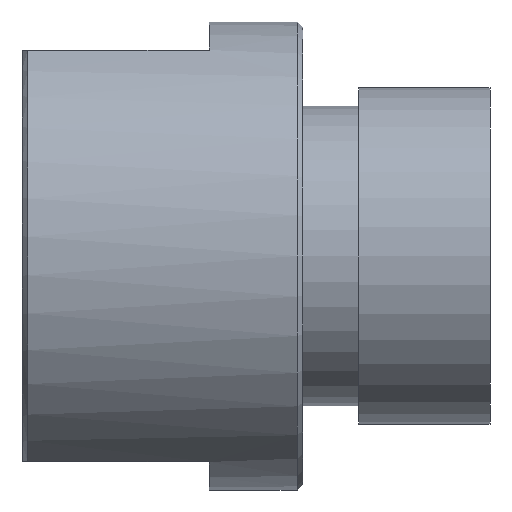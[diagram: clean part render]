
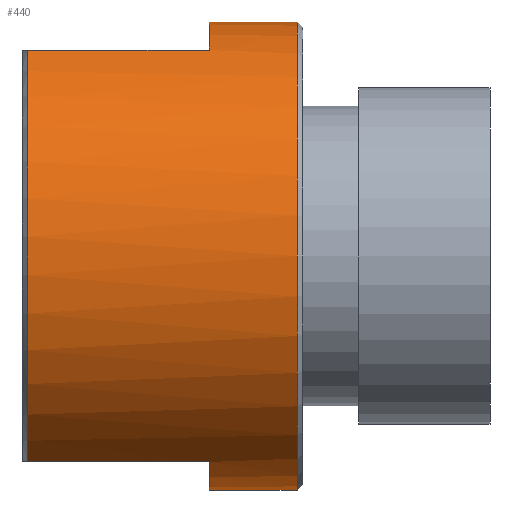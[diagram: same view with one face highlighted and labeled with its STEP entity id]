
A CAD part, left-side view. The second image highlights one B-rep face of the part: STEP entity #440.
In plain terms, the highlighted cylindrical face has radius 12.5 mm (diameter 25 mm), a partial arc.
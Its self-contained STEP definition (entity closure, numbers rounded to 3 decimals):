
#5 = ORIENTED_EDGE ( 'NONE', *, *, #111, .T. ) ;
#9 = AXIS2_PLACEMENT_3D ( 'NONE', #306, #179, #34 ) ;
#15 = CARTESIAN_POINT ( 'NONE',  ( -5.937, 5., 11. ) ) ;
#33 = EDGE_CURVE ( 'NONE', #388, #546, #586, .T. ) ;
#34 = DIRECTION ( 'NONE',  ( 0., 0., -1. ) ) ;
#62 = AXIS2_PLACEMENT_3D ( 'NONE', #608, #352, #543 ) ;
#73 = AXIS2_PLACEMENT_3D ( 'NONE', #437, #642, #438 ) ;
#74 = VECTOR ( 'NONE', #603, 1000. ) ;
#78 = VERTEX_POINT ( 'NONE', #693 ) ;
#99 = CIRCLE ( 'NONE', #62, 12.5 ) ;
#111 = EDGE_CURVE ( 'NONE', #388, #113, #99, .T. ) ;
#113 = VERTEX_POINT ( 'NONE', #15 ) ;
#121 = CARTESIAN_POINT ( 'NONE',  ( 0., 15., 12.5 ) ) ;
#135 = VERTEX_POINT ( 'NONE', #683 ) ;
#146 = CARTESIAN_POINT ( 'NONE',  ( -5.937, 15., 11. ) ) ;
#179 = DIRECTION ( 'NONE',  ( 0., -1., 0. ) ) ;
#189 = VERTEX_POINT ( 'NONE', #283 ) ;
#192 = CARTESIAN_POINT ( 'NONE',  ( -5.937, 15., -11. ) ) ;
#194 = CARTESIAN_POINT ( 'NONE',  ( 0., 15., -12.5 ) ) ;
#238 = CARTESIAN_POINT ( 'NONE',  ( 0., 0.3, -12.5 ) ) ;
#251 = VECTOR ( 'NONE', #666, 1000. ) ;
#255 = CARTESIAN_POINT ( 'NONE',  ( 0., 0.3, 12.5 ) ) ;
#264 = CIRCLE ( 'NONE', #793, 12.5 ) ;
#267 = FACE_OUTER_BOUND ( 'NONE', #602, .T. ) ;
#279 = AXIS2_PLACEMENT_3D ( 'NONE', #565, #631, #842 ) ;
#281 = ORIENTED_EDGE ( 'NONE', *, *, #33, .F. ) ;
#283 = CARTESIAN_POINT ( 'NONE',  ( -5.937, 14.7, 11. ) ) ;
#306 = CARTESIAN_POINT ( 'NONE',  ( 0., 15., 0. ) ) ;
#324 = VERTEX_POINT ( 'NONE', #238 ) ;
#332 = EDGE_CURVE ( 'NONE', #135, #527, #577, .T. ) ;
#344 = ORIENTED_EDGE ( 'NONE', *, *, #355, .T. ) ;
#352 = DIRECTION ( 'NONE',  ( 0., -1., 0. ) ) ;
#355 = EDGE_CURVE ( 'NONE', #189, #78, #560, .T. ) ;
#388 = VERTEX_POINT ( 'NONE', #579 ) ;
#405 = VECTOR ( 'NONE', #521, 1000. ) ;
#411 = ORIENTED_EDGE ( 'NONE', *, *, #678, .F. ) ;
#437 = CARTESIAN_POINT ( 'NONE',  ( 0., 14.7, 0. ) ) ;
#438 = DIRECTION ( 'NONE',  ( 0., 0., 1. ) ) ;
#440 = ADVANCED_FACE ( 'NONE', ( #267 ), #559, .T. ) ;
#460 = CARTESIAN_POINT ( 'NONE',  ( -5.937, 5., -11. ) ) ;
#462 = LINE ( 'NONE', #194, #673 ) ;
#467 = LINE ( 'NONE', #146, #74 ) ;
#483 = DIRECTION ( 'NONE',  ( 0., 0., 1. ) ) ;
#521 = DIRECTION ( 'NONE',  ( 0., -1., 0. ) ) ;
#527 = VERTEX_POINT ( 'NONE', #460 ) ;
#535 = LINE ( 'NONE', #192, #251 ) ;
#543 = DIRECTION ( 'NONE',  ( 0., 0., -1. ) ) ;
#546 = VERTEX_POINT ( 'NONE', #255 ) ;
#559 = CYLINDRICAL_SURFACE ( 'NONE', #9, 12.5 ) ;
#560 = CIRCLE ( 'NONE', #73, 12.5 ) ;
#561 = DIRECTION ( 'NONE',  ( 0., 1., 0. ) ) ;
#565 = CARTESIAN_POINT ( 'NONE',  ( 0., 5., 0. ) ) ;
#577 = CIRCLE ( 'NONE', #279, 12.5 ) ;
#579 = CARTESIAN_POINT ( 'NONE',  ( 0., 5., 12.5 ) ) ;
#586 = LINE ( 'NONE', #121, #405 ) ;
#602 = EDGE_LOOP ( 'NONE', ( #281, #5, #411, #344, #730, #800, #667, #778 ) ) ;
#603 = DIRECTION ( 'NONE',  ( 0., -1., 0. ) ) ;
#608 = CARTESIAN_POINT ( 'NONE',  ( 0., 5., 0. ) ) ;
#614 = EDGE_CURVE ( 'NONE', #527, #78, #535, .T. ) ;
#618 = EDGE_CURVE ( 'NONE', #135, #324, #462, .T. ) ;
#631 = DIRECTION ( 'NONE',  ( 0., 1., 0. ) ) ;
#642 = DIRECTION ( 'NONE',  ( 0., -1., 0. ) ) ;
#666 = DIRECTION ( 'NONE',  ( 0., 1., 0. ) ) ;
#667 = ORIENTED_EDGE ( 'NONE', *, *, #618, .T. ) ;
#673 = VECTOR ( 'NONE', #731, 1000. ) ;
#678 = EDGE_CURVE ( 'NONE', #189, #113, #467, .T. ) ;
#683 = CARTESIAN_POINT ( 'NONE',  ( 0., 5., -12.5 ) ) ;
#688 = CARTESIAN_POINT ( 'NONE',  ( 0., 0.3, 0. ) ) ;
#693 = CARTESIAN_POINT ( 'NONE',  ( -5.937, 14.7, -11. ) ) ;
#730 = ORIENTED_EDGE ( 'NONE', *, *, #614, .F. ) ;
#731 = DIRECTION ( 'NONE',  ( 0., -1., 0. ) ) ;
#778 = ORIENTED_EDGE ( 'NONE', *, *, #853, .T. ) ;
#793 = AXIS2_PLACEMENT_3D ( 'NONE', #688, #561, #483 ) ;
#800 = ORIENTED_EDGE ( 'NONE', *, *, #332, .F. ) ;
#842 = DIRECTION ( 'NONE',  ( -1., 0., 0. ) ) ;
#853 = EDGE_CURVE ( 'NONE', #324, #546, #264, .T. ) ;
